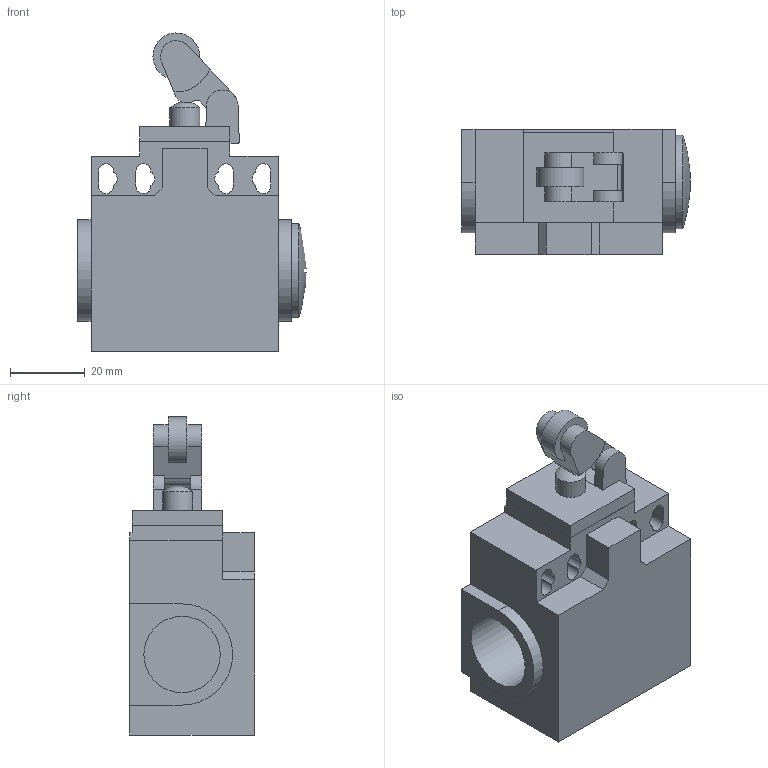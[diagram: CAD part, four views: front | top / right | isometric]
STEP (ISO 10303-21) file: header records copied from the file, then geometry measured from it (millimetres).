
FILE_DESCRIPTION((''),'2;1');
FILE_NAME('D:\Documenti_D\Corrispondenza\Comepi\Catalogo da fare\Modelli Nov 2011\DP\STEP\DP1-T31.iam.step','2011-11-17T12:04:49',(''),(''),'Autodesk Inventor 2010','Autodesk Inventor 2010','');
FILE_SCHEMA(('AUTOMOTIVE_DESIGN { 1 0 10303 214 1 1 1 1 }'));
Length unit declared in the file: millimetre
Products named in the file (8): DP1-T31; DP1; tappo; T31.iam; T31_1; T31_2; T31_3
Assembly tree (7 placements, depth 3):
  DP1-T31
    DP1
      DP1
      tappo
    T31.iam
      T31_1
      T31_2
      T31_3
Bounding box: 60.92 x 33.3 x 84.9 mm (x, y, z)
Volume: 75632 mm3; surface area: 22688.3 mm2
Topology: 5 solids, 5 shells, 103 faces, 274 edges, 181 vertices
Faces by surface type: plane 71, cylinder 29, sphere 2, cone 1
Full cylindrical faces by diameter (mm): 8 x2, 20.4 x1, 25 x1
Entity records: 3457 total; most frequent: DIRECTION 565, CARTESIAN_POINT 563, ORIENTED_EDGE 532, EDGE_CURVE 266, VECTOR 203, LINE 203, AXIS2_PLACEMENT_3D 181, VERTEX_POINT 179
